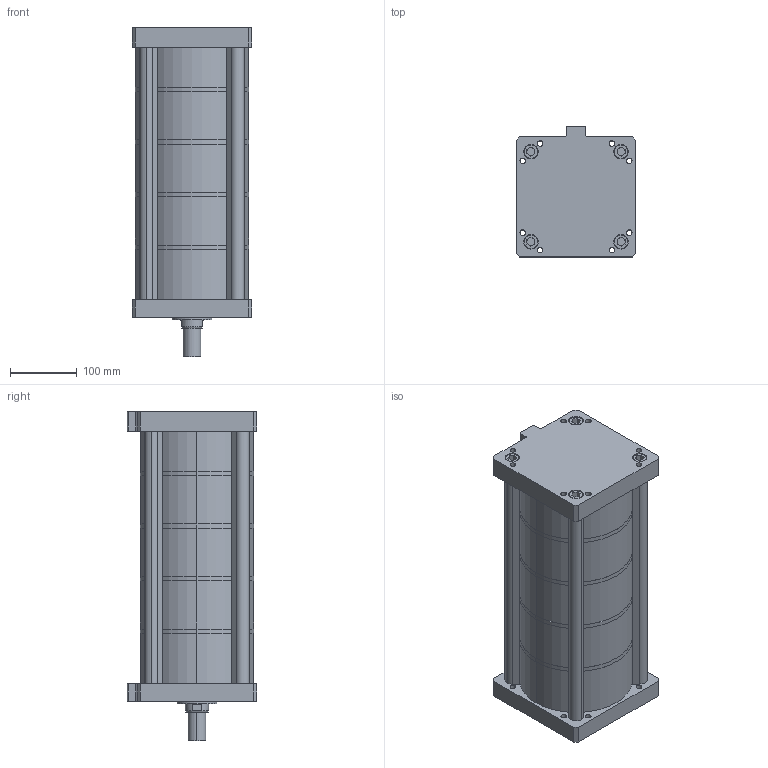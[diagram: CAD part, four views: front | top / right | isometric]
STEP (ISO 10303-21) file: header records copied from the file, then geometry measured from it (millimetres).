
FILE_DESCRIPTION (( 'STEP AP203' ), '1' );
FILE_NAME ('MHK-160-50-E-5.STEP', '2016-03-30T09:35:15', ( 'WIN' ), ( '' ), 'SwSTEP 2.0', 'SolidWorks 2014', '' );
FILE_SCHEMA (( 'CONFIG_CONTROL_DESIGN' ));
Length unit declared in the file: millimetre
Products named in the file (1): MHK-160-50-E-5
Bounding box: 180 x 195 x 495.5 mm (x, y, z)
Volume: 3315932.1 mm3; surface area: 1008247.4 mm2
Topology: 12 solids, 12 shells, 410 faces, 964 edges, 610 vertices
Faces by surface type: plane 246, cylinder 154, cone 10
Entity records: 11948 total; most frequent: DIRECTION 2189, CARTESIAN_POINT 2023, ORIENTED_EDGE 1920, EDGE_CURVE 960, AXIS2_PLACEMENT_3D 826, VERTEX_POINT 610, LINE 537, VECTOR 537
